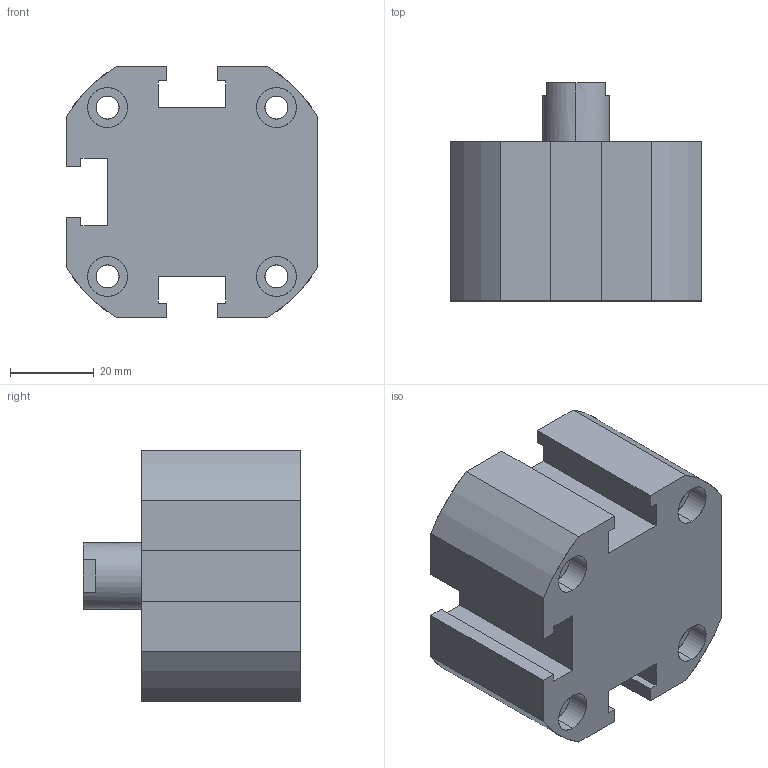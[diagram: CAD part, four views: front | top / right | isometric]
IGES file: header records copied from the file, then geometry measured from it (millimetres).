
Start section: SolidWorks IGES file using analytic representation for surfaces
Global section: file name: C:\Users\Toshiba\Desktop\XC#0-40-10.IGS; native system: SolidWorks 2014; preprocessor: SolidWorks 2014; author: Toshiba; date: 160523.150033; units: millimetre
Bounding box: 60 x 52 x 60 mm (x, y, z)
Surface area: 21732.7 mm2 (no closed solid volume)
Topology: 0 solids, 0 shells, 107 faces, 1894 edges, 1890 vertices
Faces by surface type: revolution 58, bspline 49
